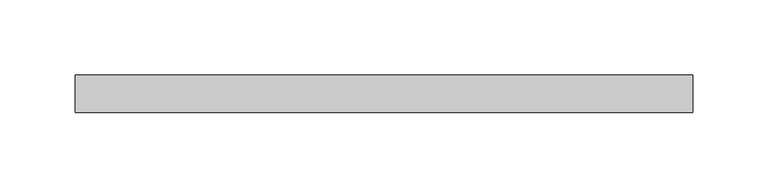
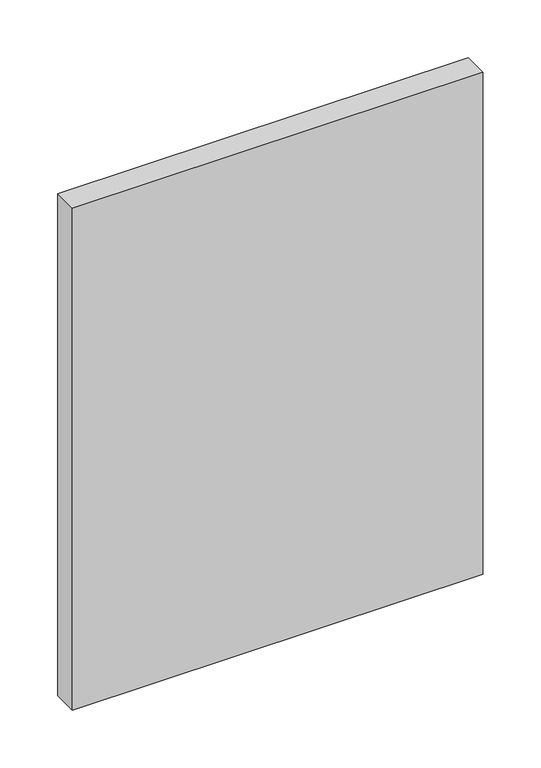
"""IFC4 building model written with IfcOpenShell, lengths in millimetres: plate geometry, 系统嵌板 : 玻璃."""

from ifc_helpers import new_model, si_unit, origin, origin_with_axes, place, context, project, spatial, polyline, outline, extrude, source, transform, mapped, element, save


def plate_9b97b4d8(model_context):
    return source(origin(), model_context, "Body", "SweptSolid", [
        extrude(outline(polyline([(205.0, -12.5), (-205.0, -12.5), (-205.0, 12.5), (205.0, 12.5), (205.0, -12.5)])), origin_with_axes(), (0.0, 0.0, 1.0), 530.0),
    ])


if __name__ == "__main__":
    model = new_model("IFC4")
    model_context = context("Model", 3, world=origin())
    ifc_project = project(units=[si_unit("LENGTHUNIT", "METRE", prefix="MILLI")], contexts=[model_context])
    site = spatial("IfcSite", under=ifc_project)
    building = spatial("IfcBuilding", under=site)
    placement = place(None, origin())
    plate_shape = plate_9b97b4d8(model_context)
    element("IfcPlate", 1, ObjectType="系统嵌板 : 玻璃", at=placement, inside=building, context=model_context, shape_type="MappedRepresentation", body=[
        mapped(plate_shape, transform((0.0, 0.0, 0.0), x_axis=(1.0, 0.0, 0.0), y_axis=(0.0, 1.0, 0.0), z_axis=(0.0, 0.0, 1.0))),
    ])
    save(model, "model.ifc")
